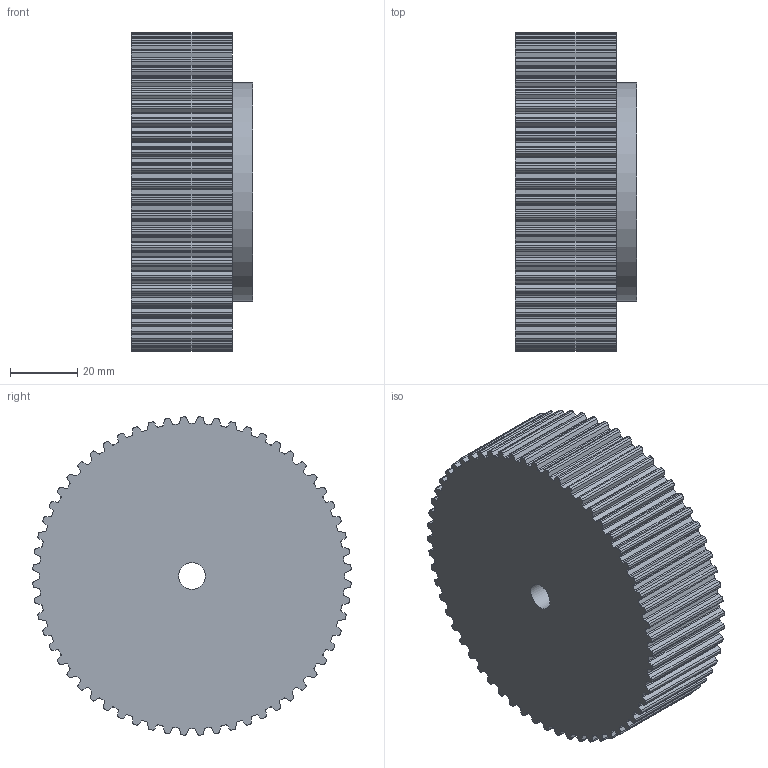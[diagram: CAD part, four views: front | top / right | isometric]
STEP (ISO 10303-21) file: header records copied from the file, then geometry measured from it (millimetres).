
FILE_DESCRIPTION( ( 'STEP AP203' ), '1' );
FILE_NAME( 'C:/Users/Stangenbergd/Documents/CAD_Step/1/16246000.stp', '2020-09-13T08:23:06', ( 'License CC BY-ND 4.0' ), ( 'CADENAS' ), ' ', 'PARTsolutions', ' ' );
FILE_SCHEMA( ( 'CONFIG_CONTROL_DESIGN' ) );
Length unit declared in the file: millimetre
Products named in the file (1): _16246000
Bounding box: 36 x 94.56 x 94.56 mm (x, y, z)
Volume: 219927 mm3; surface area: 28558.8 mm2
Topology: 1 solids, 1 shells, 485 faces, 1446 edges, 964 vertices
Faces by surface type: cylinder 302, plane 183
Full cylindrical faces by diameter (mm): 8 x1, 65 x1
Entity records: 16582 total; most frequent: DIRECTION 3020, CARTESIAN_POINT 2894, ORIENTED_EDGE 2888, EDGE_CURVE 1444, AXIS2_PLACEMENT_3D 1090, VERTEX_POINT 964, LINE 840, VECTOR 840
